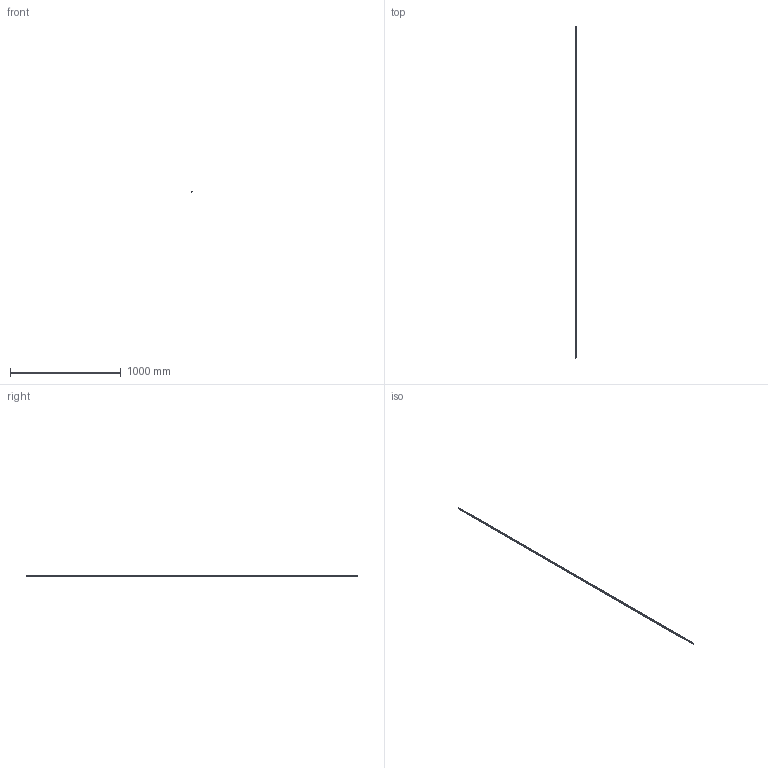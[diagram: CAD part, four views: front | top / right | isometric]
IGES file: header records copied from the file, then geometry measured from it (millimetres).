
Start section: Data from Parasolid IGES Translator 20.0.26, Copyright(c) 2006 Siemens P LM Software. All Rights Reserved.
Global section: file name: 9298820.igs; native system: By Siemens PLM Incorporated; preprocessor: XPlus GENERIC/IGES 20.0.26; author: Noname; organization: Noname; date: 20210826.183345; units: millimetre
Bounding box: 8.7 x 3000 x 14 mm (x, y, z)
Surface area: 151261 mm2 (no closed solid volume)
Topology: 0 solids, 0 shells, 18 faces, 96 edges, 96 vertices
Faces by surface type: extrusion 18
